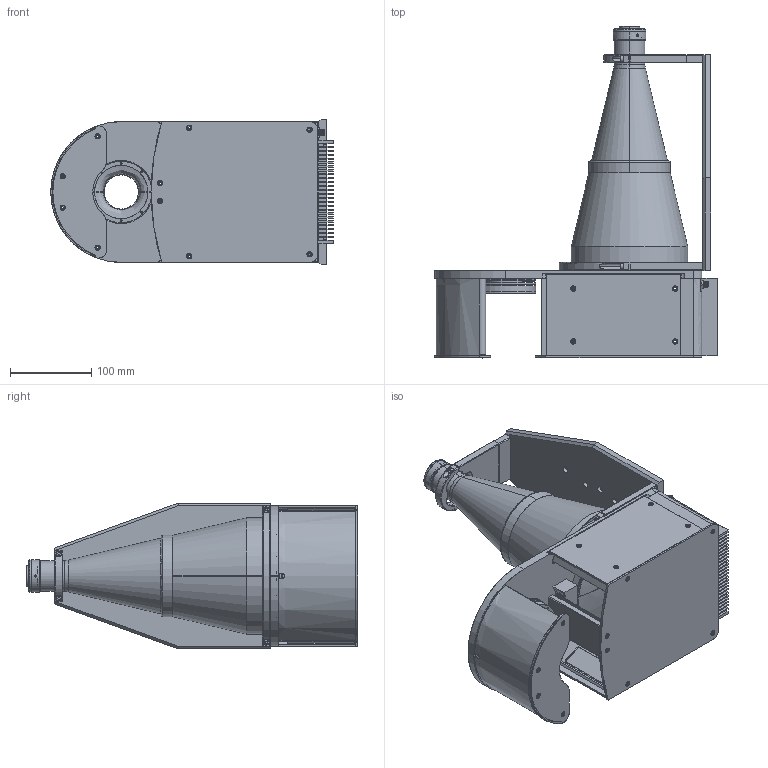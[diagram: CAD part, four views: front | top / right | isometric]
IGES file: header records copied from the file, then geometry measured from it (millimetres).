
Start section: SolidWorks IGES file using analytic representation for surfaces
Global section: file name: \\172.16.20.198\dati\R&D\01 archivio\DPXXXXX-X\DP22465-B_TCCAGE12096.igs; native system: SolidWorks 2021; preprocessor: SolidWorks 2021; author: lrizzotto; date: 220119.123657; units: millimetre
Bounding box: 346.95 x 407.86 x 179 mm (x, y, z)
Surface area: 712507.4 mm2 (no closed solid volume)
Topology: 0 solids, 0 shells, 989 faces, 15800 edges, 15784 vertices
Faces by surface type: bspline 634, revolution 355
